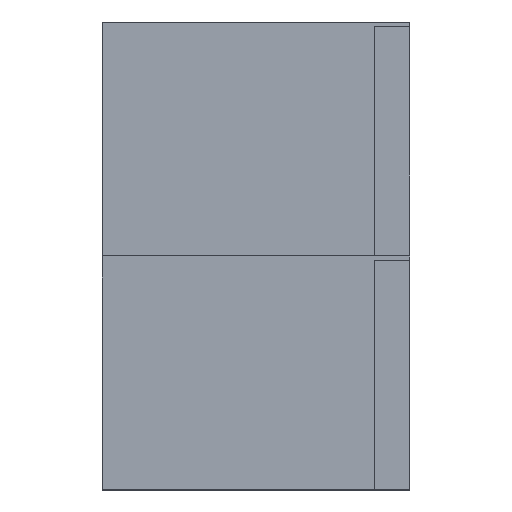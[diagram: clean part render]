
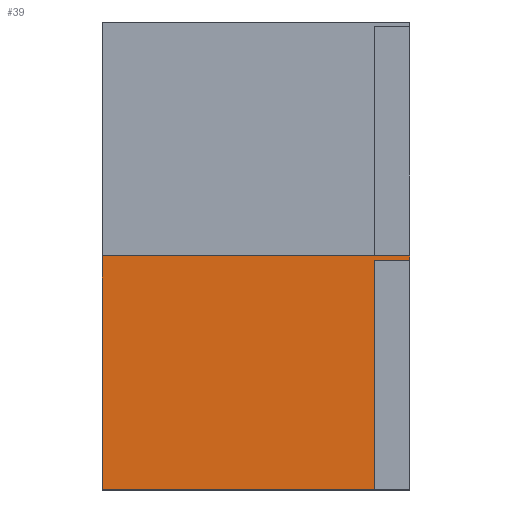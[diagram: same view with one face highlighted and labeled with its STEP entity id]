
A CAD part, top view. The second image highlights one B-rep face of the part: STEP entity #39.
In plain terms, the highlighted planar face has unit normal (0, 0, 1).
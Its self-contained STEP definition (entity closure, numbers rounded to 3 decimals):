
#39=ADVANCED_FACE('',(#57),#583,.T.);
#57=FACE_OUTER_BOUND('',#75,.T.);
#75=EDGE_LOOP('',(#107,#108,#109,#110,#111,#112));
#107=ORIENTED_EDGE('',*,*,#396,.T.);
#108=ORIENTED_EDGE('',*,*,#397,.T.);
#109=ORIENTED_EDGE('',*,*,#391,.F.);
#110=ORIENTED_EDGE('',*,*,#394,.F.);
#111=ORIENTED_EDGE('',*,*,#384,.F.);
#112=ORIENTED_EDGE('',*,*,#398,.T.);
#174=PCURVE('',#579,#258);
#181=PCURVE('',#580,#265);
#185=PCURVE('',#581,#269);
#191=PCURVE('',#583,#275);
#192=PCURVE('',#583,#276);
#193=PCURVE('',#583,#277);
#194=PCURVE('',#583,#278);
#195=PCURVE('',#583,#279);
#196=PCURVE('',#583,#280);
#200=PCURVE('',#584,#284);
#203=PCURVE('',#585,#287);
#213=PCURVE('',#587,#297);
#258=DEFINITIONAL_REPRESENTATION('',(#428),#966);
#265=DEFINITIONAL_REPRESENTATION('',(#442),#966);
#269=DEFINITIONAL_REPRESENTATION('',(#449),#966);
#275=DEFINITIONAL_REPRESENTATION('',(#457),#966);
#276=DEFINITIONAL_REPRESENTATION('',(#459),#966);
#277=DEFINITIONAL_REPRESENTATION('',(#460),#966);
#278=DEFINITIONAL_REPRESENTATION('',(#461),#966);
#279=DEFINITIONAL_REPRESENTATION('',(#462),#966);
#280=DEFINITIONAL_REPRESENTATION('',(#464),#966);
#284=DEFINITIONAL_REPRESENTATION('',(#471),#966);
#287=DEFINITIONAL_REPRESENTATION('',(#475),#966);
#297=DEFINITIONAL_REPRESENTATION('',(#486),#966);
#342=SURFACE_CURVE('',#427,(#174,#195),.PCURVE_S1.);
#349=SURFACE_CURVE('',#441,(#181,#193),.PCURVE_S1.);
#352=SURFACE_CURVE('',#448,(#185,#194),.PCURVE_S1.);
#354=SURFACE_CURVE('',#456,(#191,#200),.PCURVE_S1.);
#355=SURFACE_CURVE('',#458,(#192,#213),.PCURVE_S1.);
#356=SURFACE_CURVE('',#463,(#196,#203),.PCURVE_S1.);
#384=EDGE_CURVE('',#561,#553,#342,.T.);
#391=EDGE_CURVE('',#557,#555,#349,.T.);
#394=EDGE_CURVE('',#553,#557,#352,.T.);
#396=EDGE_CURVE('',#564,#562,#354,.T.);
#397=EDGE_CURVE('',#562,#555,#355,.T.);
#398=EDGE_CURVE('',#561,#564,#356,.T.);
#427=B_SPLINE_CURVE_WITH_KNOTS('',1,(#686,#687),.UNSPECIFIED.,.F.,.F.,(2,
2),(-114.,0.),.UNSPECIFIED.);
#428=B_SPLINE_CURVE_WITH_KNOTS('',1,(#688,#689),.UNSPECIFIED.,.F.,.F.,(2,
2),(-114.,0.),.UNSPECIFIED.);
#441=B_SPLINE_CURVE_WITH_KNOTS('',1,(#716,#717),.UNSPECIFIED.,.F.,.F.,(2,
2),(-356.,-227.),.UNSPECIFIED.);
#442=B_SPLINE_CURVE_WITH_KNOTS('',1,(#718,#719),.UNSPECIFIED.,.F.,.F.,(2,
2),(-356.,-227.),.UNSPECIFIED.);
#448=B_SPLINE_CURVE_WITH_KNOTS('',1,(#730,#731),.UNSPECIFIED.,.F.,.F.,(2,
2),(-454.,-356.),.UNSPECIFIED.);
#449=B_SPLINE_CURVE_WITH_KNOTS('',1,(#732,#733),.UNSPECIFIED.,.F.,.F.,(2,
2),(-454.,-356.),.UNSPECIFIED.);
#456=B_SPLINE_CURVE_WITH_KNOTS('',1,(#746,#747),.UNSPECIFIED.,.F.,.F.,(2,
2),(-128.,-113.),.UNSPECIFIED.);
#457=B_SPLINE_CURVE_WITH_KNOTS('',1,(#748,#749),.UNSPECIFIED.,.F.,.F.,(2,
2),(-128.,-113.),.UNSPECIFIED.);
#458=B_SPLINE_CURVE_WITH_KNOTS('',1,(#750,#751),.UNSPECIFIED.,.F.,.F.,(2,
2),(225.,227.),.UNSPECIFIED.);
#459=B_SPLINE_CURVE_WITH_KNOTS('',1,(#752,#753),.UNSPECIFIED.,.F.,.F.,(2,
2),(225.,227.),.UNSPECIFIED.);
#460=B_SPLINE_CURVE_WITH_KNOTS('',1,(#754,#755),.UNSPECIFIED.,.F.,.F.,(2,
2),(-356.,-227.),.UNSPECIFIED.);
#461=B_SPLINE_CURVE_WITH_KNOTS('',1,(#756,#757),.UNSPECIFIED.,.F.,.F.,(2,
2),(-454.,-356.),.UNSPECIFIED.);
#462=B_SPLINE_CURVE_WITH_KNOTS('',1,(#758,#759),.UNSPECIFIED.,.F.,.F.,(2,
2),(-114.,0.),.UNSPECIFIED.);
#463=B_SPLINE_CURVE_WITH_KNOTS('',1,(#760,#761),.UNSPECIFIED.,.F.,.F.,(2,
2),(-224.,-128.),.UNSPECIFIED.);
#464=B_SPLINE_CURVE_WITH_KNOTS('',3,(#762,#763,#764,#765),.UNSPECIFIED.,
 .F.,.F.,(4,4),(-224.,-128.),.UNSPECIFIED.);
#471=B_SPLINE_CURVE_WITH_KNOTS('',1,(#778,#779),.UNSPECIFIED.,.F.,.F.,(2,
2),(-128.,-113.),.UNSPECIFIED.);
#475=B_SPLINE_CURVE_WITH_KNOTS('',1,(#786,#787),.UNSPECIFIED.,.F.,.F.,(2,
2),(-224.,-128.),.UNSPECIFIED.);
#486=B_SPLINE_CURVE_WITH_KNOTS('',1,(#808,#809),.UNSPECIFIED.,.F.,.F.,(2,
2),(225.,227.),.UNSPECIFIED.);
#553=VERTEX_POINT('',#670);
#555=VERTEX_POINT('',#672);
#557=VERTEX_POINT('',#674);
#561=VERTEX_POINT('',#678);
#562=VERTEX_POINT('',#679);
#564=VERTEX_POINT('',#681);
#579=PLANE('',#617);
#580=PLANE('',#618);
#581=PLANE('',#619);
#583=PLANE('',#621);
#584=PLANE('',#622);
#585=PLANE('',#623);
#587=PLANE('',#625);
#617=AXIS2_PLACEMENT_3D('',#659,#638,$);
#618=AXIS2_PLACEMENT_3D('',#660,#639,$);
#619=AXIS2_PLACEMENT_3D('',#661,#640,$);
#621=AXIS2_PLACEMENT_3D('',#663,#642,$);
#622=AXIS2_PLACEMENT_3D('',#664,#643,$);
#623=AXIS2_PLACEMENT_3D('',#665,#644,$);
#625=AXIS2_PLACEMENT_3D('',#667,#646,$);
#638=DIRECTION('',(0.,-1.,0.));
#639=DIRECTION('',(0.,1.,0.));
#640=DIRECTION('',(-1.,0.,0.));
#642=DIRECTION('',(0.,0.,1.));
#643=DIRECTION('',(0.,-1.,0.));
#644=DIRECTION('',(1.,0.,0.));
#646=DIRECTION('',(1.,0.,0.));
#659=CARTESIAN_POINT('',(140.,335.,-157.));
#660=CARTESIAN_POINT('',(269.,433.,-157.));
#661=CARTESIAN_POINT('',(140.,433.,-157.));
#663=CARTESIAN_POINT('',(140.,335.,-117.));
#664=CARTESIAN_POINT('',(269.,431.,-149.));
#665=CARTESIAN_POINT('',(254.,431.,-149.));
#667=CARTESIAN_POINT('',(269.,335.,-157.));
#670=CARTESIAN_POINT('',(140.,335.,-117.));
#672=CARTESIAN_POINT('',(269.,433.,-117.));
#674=CARTESIAN_POINT('',(140.,433.,-117.));
#678=CARTESIAN_POINT('',(254.,335.,-117.));
#679=CARTESIAN_POINT('',(269.,431.,-117.));
#681=CARTESIAN_POINT('',(254.,431.,-117.));
#686=CARTESIAN_POINT('',(254.,335.,-117.));
#687=CARTESIAN_POINT('',(140.,335.,-117.));
#688=CARTESIAN_POINT('',(114.,40.));
#689=CARTESIAN_POINT('',(0.,40.));
#716=CARTESIAN_POINT('',(140.,433.,-117.));
#717=CARTESIAN_POINT('',(269.,433.,-117.));
#718=CARTESIAN_POINT('',(356.,40.));
#719=CARTESIAN_POINT('',(227.,40.));
#730=CARTESIAN_POINT('',(140.,335.,-117.));
#731=CARTESIAN_POINT('',(140.,433.,-117.));
#732=CARTESIAN_POINT('',(454.,40.));
#733=CARTESIAN_POINT('',(356.,40.));
#746=CARTESIAN_POINT('',(254.,431.,-117.));
#747=CARTESIAN_POINT('',(269.,431.,-117.));
#748=CARTESIAN_POINT('',(114.,96.));
#749=CARTESIAN_POINT('',(129.,96.));
#750=CARTESIAN_POINT('',(269.,431.,-117.));
#751=CARTESIAN_POINT('',(269.,433.,-117.));
#752=CARTESIAN_POINT('',(129.,96.));
#753=CARTESIAN_POINT('',(129.,98.));
#754=CARTESIAN_POINT('',(0.,98.));
#755=CARTESIAN_POINT('',(129.,98.));
#756=CARTESIAN_POINT('',(0.,0.));
#757=CARTESIAN_POINT('',(0.,98.));
#758=CARTESIAN_POINT('',(114.,0.));
#759=CARTESIAN_POINT('',(0.,0.));
#760=CARTESIAN_POINT('',(254.,335.,-117.));
#761=CARTESIAN_POINT('',(254.,431.,-117.));
#762=CARTESIAN_POINT('',(114.,0.));
#763=CARTESIAN_POINT('',(114.,32.));
#764=CARTESIAN_POINT('',(114.,64.));
#765=CARTESIAN_POINT('',(114.,96.));
#778=CARTESIAN_POINT('',(32.,128.));
#779=CARTESIAN_POINT('',(32.,113.));
#786=CARTESIAN_POINT('',(32.,224.));
#787=CARTESIAN_POINT('',(32.,128.));
#808=CARTESIAN_POINT('',(225.,40.));
#809=CARTESIAN_POINT('',(227.,40.));
#966=(
GEOMETRIC_REPRESENTATION_CONTEXT(2)
PARAMETRIC_REPRESENTATION_CONTEXT()
REPRESENTATION_CONTEXT('pspace','')
);
